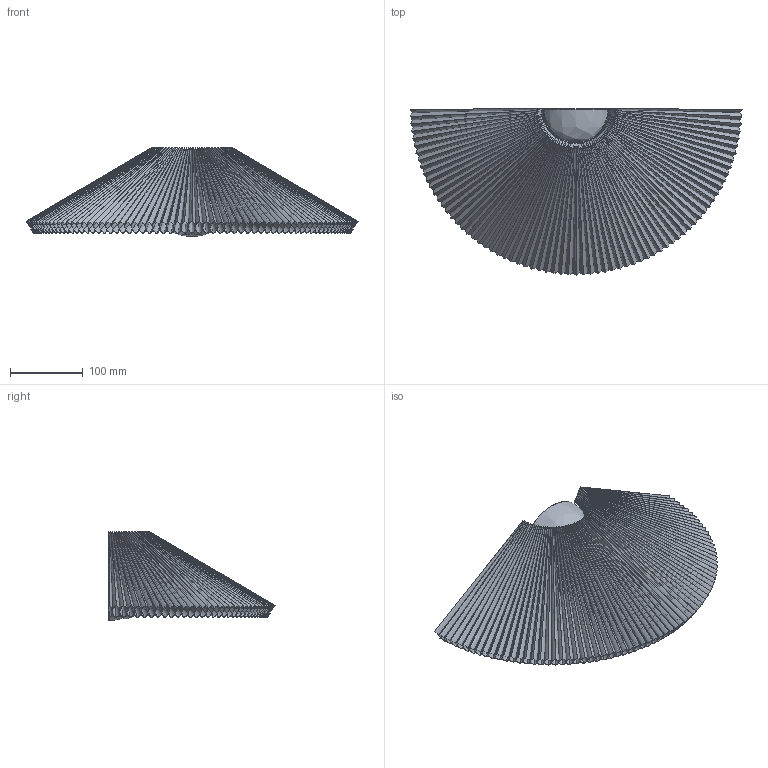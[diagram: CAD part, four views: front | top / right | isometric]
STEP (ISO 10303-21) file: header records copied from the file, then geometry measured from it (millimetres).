
FILE_DESCRIPTION (( 'STEP AP214' ), '1' );
FILE_NAME ('For online nebra wall.STEP', '2024-02-26T11:37:00', ( '' ), ( '' ), 'SwSTEP 2.0', 'SolidWorks 2023', '' );
FILE_SCHEMA (( 'AUTOMOTIVE_DESIGN' ));
Length unit declared in the file: millimetre
Products named in the file (18): WALL_G9_LAMPHOLDER_BRACKET.stp; SCREW_2_6X18PB.stp; PWM2_5_SCREW.stp; G9_MODULE_ASM.stp; WALL_DIFFUSER_BIG.stp; M8_TUBE.stp; E_RING.stp; WALL_DIFFUSER_ASM.stp; RIVET_D3X4.stp; BRACKET.stp; wall_lamp_20231108_V1.stp; SCREW_PM3X4.stp; KM4X10.stp; WALL_BRACKET_ASM.stp; Wall lamp shade; LOCKING-530_ASM.stp; For online nebra wall; PET_SHEET_FRICTION.stp
Assembly tree (23 placements, depth 5):
  For online nebra wall
    wall_lamp_20231108_V1.stp
      WALL_BRACKET_ASM.stp
        WALL_DIFFUSER_ASM.stp
          WALL_DIFFUSER_BIG.stp
          KM4X10.stp  x2
        G9_MODULE_ASM.stp
          WALL_G9_LAMPHOLDER_BRACKET.stp
          PWM2_5_SCREW.stp  x2
          SCREW_2_6X18PB.stp
        BRACKET.stp
        M8_TUBE.stp  x2
        E_RING.stp  x2
      LOCKING-530_ASM.stp
        RIVET_D3X4.stp  x2
        SCREW_PM3X4.stp
      PET_SHEET_FRICTION.stp  x2
    Wall lamp shade
Bounding box: 457.01 x 228.51 x 122.3 mm (x, y, z)
Volume: 176326.2 mm3; surface area: 1341441.4 mm2
Topology: 88 solids, 88 shells, 1779 faces, 4430 edges, 2917 vertices
Faces by surface type: plane 757, bspline 631, cylinder 308, cone 57, torus 16, sphere 10
Entity records: 80411 total; most frequent: CARTESIAN_POINT 45943, ORIENTED_EDGE 8054, DIRECTION 4475, EDGE_CURVE 4027, VERTEX_POINT 2661, B_SPLINE_CURVE_WITH_KNOTS 1990, EDGE_LOOP 1748, LINE 1661
